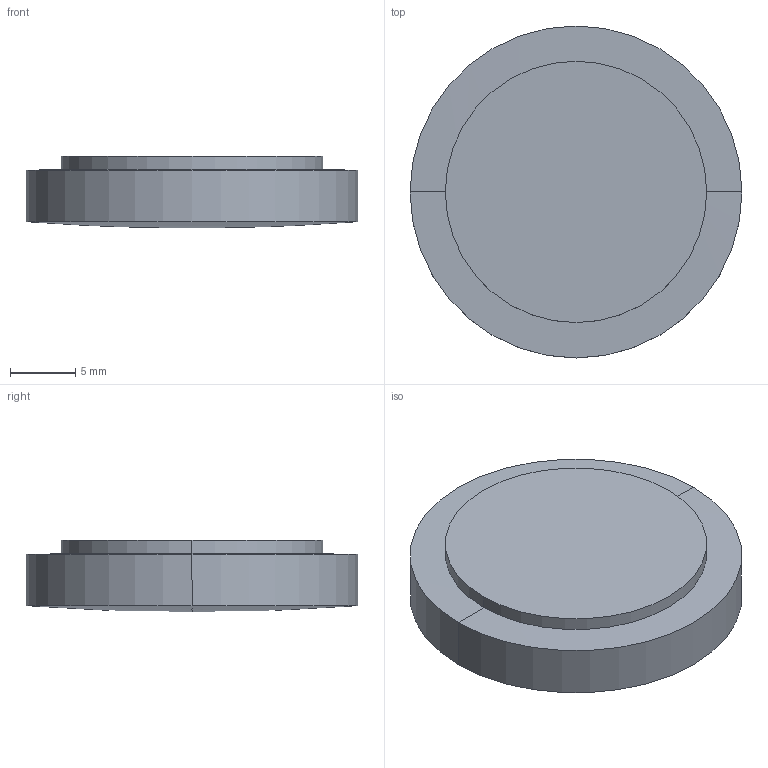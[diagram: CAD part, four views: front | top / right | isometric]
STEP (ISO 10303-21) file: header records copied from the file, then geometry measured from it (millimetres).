
FILE_DESCRIPTION(('STEP AP214'),'1');
FILE_NAME('LLU-25300.STEP','2020-03-09T17:42:10',(' '),(' '),'Spatial InterOp 3D',' ',' ');
FILE_SCHEMA(('AUTOMOTIVE_DESIGN { 1 0 10303 214 1 1 1 1 }'));
Length unit declared in the file: millimetre
Products named in the file (1): 1
Bounding box: 25.4 x 25.4 x 5.5 mm (x, y, z)
Volume: 2454.5 mm3; surface area: 2020.3 mm2
Topology: 2 solids, 2 shells, 10 faces, 20 edges, 10 vertices
Faces by surface type: sphere 4, cylinder 4, plane 2
Entity records: 255 total; most frequent: DIRECTION 52, CARTESIAN_POINT 38, ORIENTED_EDGE 32, AXIS2_PLACEMENT_3D 24, EDGE_CURVE 16, CIRCLE 12, ADVANCED_FACE 10, FACE_OUTER_BOUND 10
